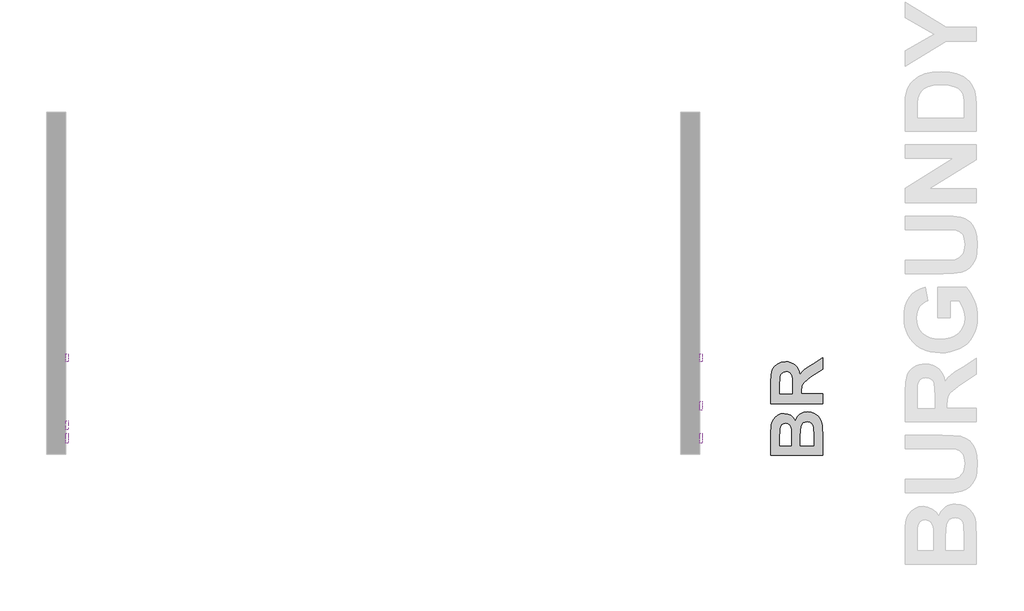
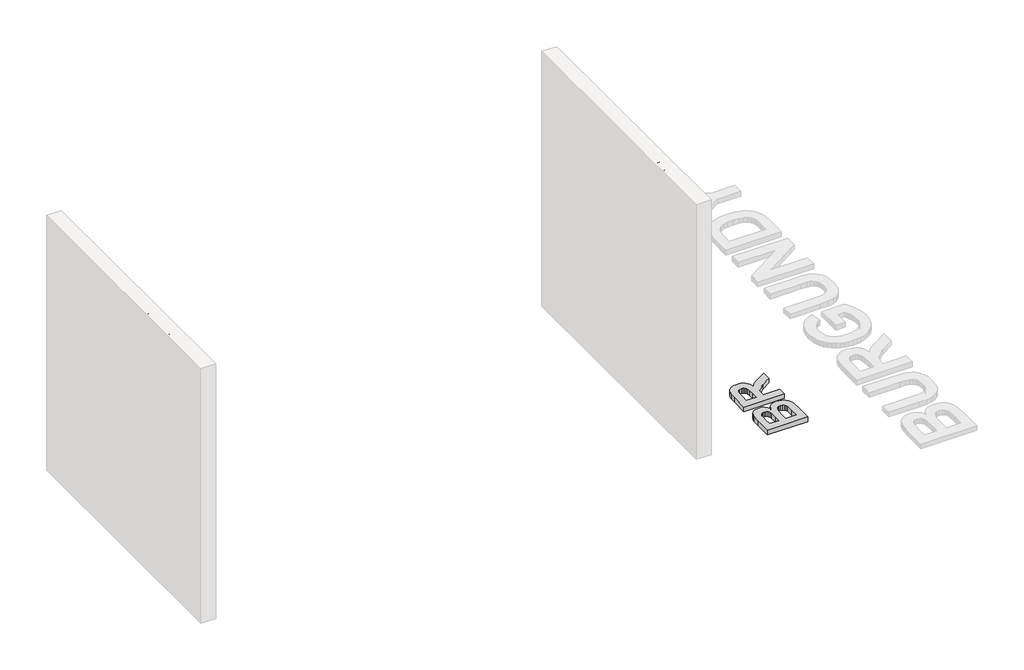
# One storey, part 6 of 10: 7 proxies.
"""IFC4 building model written with IfcOpenShell, lengths in millimetres."""

from ifc_helpers import new_model, si_unit, frame, origin, origin_with_axes, place, context, project, spatial, polyline, outline, extrude, element, save

model = new_model("IFC4")

# Units and contexts
model_context = context("Model", 3, world=origin())
ifc_project = project(units=[si_unit("LENGTHUNIT", "METRE", prefix="MILLI")], contexts=[model_context])

# Site, building, storey
site = spatial("IfcSite", under=ifc_project)
building = spatial("IfcBuilding", under=site)
storey = spatial("IfcBuildingStorey", under=building, Name="PORTOBELLO - SHOWROOM", Elevation=0.0)

# Proxies
placement = place(None, origin())
element("IfcBuildingElementProxy", 1, Name="10mm Arial", ObjectType="10mm Arial", at=placement, inside=storey, context=model_context, shape_type="SweptSolid", body=[
    extrude(outline(polyline([(3765.0222015, 2518.4745677), (3765.0222015, 2618.9308778), (3803.3555054, 2618.9308778), (3822.1297499, 2615.9755591), (3833.2152607, 2606.8888738), (3837.2251744, 2594.0375295), (3833.8529228, 2582.3020938), (3823.6625915, 2573.4116123), (3836.0356893, 2564.0428841), (3840.3644341, 2548.4201621), (3837.4091154, 2534.9188928), (3830.0882637, 2525.30491), (3819.1621685, 2520.203613), (3803.0611998, 2518.4745677), (3765.0222015, 2518.4745677)]), holes=[polyline([(3777.5792403, 2578.1205018), (3800.5105513, 2578.1205018), (3813.9014559, 2579.1996223), (3821.9580716, 2583.8471982), (3824.6681357, 2592.0264412), (3822.1420126, 2600.217947), (3814.9070001, 2605.0617266), (3798.7692432, 2606.373839), (3777.5792403, 2606.373839), (3777.5792403, 2578.1205018)]), polyline([(3777.5792403, 2531.0316064), (3803.3309799, 2531.0316064), (3812.6506572, 2531.5221158), (3820.5355946, 2534.2567053), (3825.7595189, 2539.8362488), (3827.8073954, 2548.2975347), (3825.4038997, 2558.0586703), (3817.6170641, 2563.8834686), (3802.1047066, 2565.563463), (3777.5792403, 2565.563463), (3777.5792403, 2531.0316064)])]), frame((-12116.0080774, 0.0, 0.0), z_axis=(1.0, 0.0, 0.0), x_axis=(0.0, 1.0, 0.0)), (0.0, 0.0, 1.0), 20.0),
    extrude(outline(polyline([(3903.149628, 2518.4745677), (3903.149628, 2531.1542338), (3893.314916, 2520.4672618), (3880.4880971, 2516.9049378), (3868.679085, 2519.4065354), (3860.5366302, 2525.6850548), (3856.7964966, 2534.9311556), (3856.0607326, 2546.6052776), (3856.0607326, 2592.2471704), (3868.6177714, 2592.2471704), (3868.6177714, 2552.515915), (3869.3780608, 2539.7136215), (3874.3444678, 2532.1965661), (3883.7009332, 2529.4619766), (3894.18557, 2532.2578797), (3901.1140143, 2539.873037), (3903.149628, 2553.8648156), (3903.149628, 2592.2471704), (3915.7066667, 2592.2471704), (3915.7066667, 2518.4745677), (3903.149628, 2518.4745677)])), frame((-12116.0080774, 0.0, 0.0), z_axis=(1.0, 0.0, 0.0), x_axis=(0.0, 1.0, 0.0)), (0.0, 0.0, 1.0), 20.0),
    extrude(outline(polyline([(3932.972595, 2518.4745677), (3932.972595, 2592.2471704), (3943.960004, 2592.2471704), (3943.960004, 2581.3333379), (3951.7591023, 2591.3887791), (3959.6072515, 2593.8168003), (3972.2133412, 2589.9417766), (3968.0194865, 2578.6845875), (3959.1903186, 2581.2597615), (3952.0901961, 2578.7826894), (3947.5652475, 2571.9155588), (3945.5296338, 2557.24933), (3945.5296338, 2518.4745677), (3932.972595, 2518.4745677)])), frame((-12116.0080774, 0.0, 0.0), z_axis=(1.0, 0.0, 0.0), x_axis=(0.0, 1.0, 0.0)), (0.0, 0.0, 1.0), 20.0),
    extrude(outline(polyline([(3976.9222307, 2512.1960483), (3989.4792695, 2510.6264184), (3993.5504969, 2504.0045425), (4005.7396537, 2501.2086394), (4018.5909981, 2504.3724245), (4024.7223646, 2513.2506433), (4025.580756, 2527.8923467), (4016.7393253, 2520.8290124), (4005.9603829, 2518.4745677), (3993.0140023, 2521.2152885), (3983.3601657, 2529.4374511), (3977.3544921, 2541.4917178), (3975.3526009, 2555.728751), (3978.9455817, 2575.1897086), (3989.3443794, 2588.9607579), (4005.3472462, 2593.8168003), (4016.549253, 2591.069948), (4025.580756, 2582.8293914), (4025.580756, 2592.2471704), (4038.1377947, 2592.2471704), (4038.1377947, 2528.5545343), (4034.7042294, 2504.1639581), (4023.8271851, 2492.8209299), (4005.494399, 2488.6516006), (3993.81108, 2490.1200629), (3984.6109644, 2494.5254498), (3978.7095241, 2501.880024), (3976.9222307, 2512.1960483)]), holes=[polyline([(3987.9096397, 2556.5871424), (3989.2493433, 2545.0693702), (3993.2684541, 2537.1507103), (3999.3109158, 2532.5613824), (4006.7206723, 2531.0316064), (4014.0752466, 2532.5521853), (4020.1483652, 2537.1139221), (4024.2226583, 2544.9314145), (4025.580756, 2556.2192604), (4024.1828044, 2567.1055017), (4019.9889496, 2574.9444539), (4013.8269262, 2579.6809346), (4006.5244686, 2581.2597615), (3999.3538354, 2579.7054601), (3993.3420305, 2575.0425558), (3989.2677374, 2567.3200996), (3987.9096397, 2556.5871424)])]), frame((-12116.0080774, 0.0, 0.0), z_axis=(1.0, 0.0, 0.0), x_axis=(0.0, 1.0, 0.0)), (0.0, 0.0, 1.0), 20.0),
    extrude(outline(polyline([(4104.0622483, 2518.4745677), (4104.0622483, 2531.1542338), (4094.2275363, 2520.4672618), (4081.4007174, 2516.9049378), (4069.5917053, 2519.4065354), (4061.4492505, 2525.6850548), (4057.7091169, 2534.9311556), (4056.9733529, 2546.6052776), (4056.9733529, 2592.2471704), (4069.5303917, 2592.2471704), (4069.5303917, 2552.515915), (4070.2906811, 2539.7136215), (4075.257088, 2532.1965661), (4084.6135535, 2529.4619766), (4095.0981903, 2532.2578797), (4102.0266346, 2539.873037), (4104.0622483, 2553.8648156), (4104.0622483, 2592.2471704), (4116.619287, 2592.2471704), (4116.619287, 2518.4745677), (4104.0622483, 2518.4745677)])), frame((-12116.0080774, 0.0, 0.0), z_axis=(1.0, 0.0, 0.0), x_axis=(0.0, 1.0, 0.0)), (0.0, 0.0, 1.0), 20.0),
    extrude(outline(polyline([(4133.8852153, 2518.4745677), (4133.8852153, 2592.2471704), (4146.4422541, 2592.2471704), (4146.4422541, 2581.9464746), (4156.0439742, 2590.8492188), (4169.152836, 2593.8168003), (4181.0108989, 2591.4255673), (4189.1043028, 2585.1470479), (4192.8689619, 2575.9132098), (4193.5311495, 2563.773104), (4193.5311495, 2518.4745677), (4180.9741107, 2518.4745677), (4180.9741107, 2562.0808468), (4179.5271082, 2573.1908831), (4174.4135485, 2579.0647323), (4165.7928471, 2581.2597615), (4152.1689505, 2576.3301428), (4147.8739282, 2569.1871007), (4146.4422541, 2557.6172119), (4146.4422541, 2518.4745677), (4133.8852153, 2518.4745677)])), frame((-12116.0080774, 0.0, 0.0), z_axis=(1.0, 0.0, 0.0), x_axis=(0.0, 1.0, 0.0)), (0.0, 0.0, 1.0), 20.0),
    extrude(outline(polyline([(4256.3163433, 2518.4745677), (4256.3163433, 2530.3203679), (4248.0083416, 2520.2587953), (4236.524292, 2516.9049378), (4220.9751463, 2521.7609802), (4209.9877374, 2535.3113003), (4206.0881883, 2555.2872926), (4209.6811691, 2575.2755477), (4220.4478488, 2589.0343343), (4236.4752411, 2593.8168003), (4248.0512612, 2590.3954977), (4256.3163433, 2581.5050162), (4256.3163433, 2618.9308778), (4268.8733821, 2618.9308778), (4268.8733821, 2518.4745677), (4256.3163433, 2518.4745677)]), holes=[polyline([(4218.645227, 2555.3363436), (4220.0615727, 2543.977987), (4224.3106098, 2535.8999115), (4230.4848959, 2531.0714603), (4237.6769889, 2529.4619766), (4244.8660162, 2530.9978839), (4250.8839525, 2535.6056059), (4254.9582456, 2543.3709817), (4256.3163433, 2554.3798504), (4254.9337202, 2566.415723), (4250.7858507, 2574.7605129), (4244.6146302, 2579.6349494), (4237.1619541, 2581.2597615), (4229.8962847, 2579.6993287), (4223.9427278, 2575.0180303), (4219.9696022, 2566.976743), (4218.645227, 2555.3363436)])]), frame((-12116.0080774, 0.0, 0.0), z_axis=(1.0, 0.0, 0.0), x_axis=(0.0, 1.0, 0.0)), (0.0, 0.0, 1.0), 20.0),
    extrude(outline(polyline([(4287.7089403, 2490.2212304), (4286.1393104, 2502.3122853), (4292.5159317, 2501.2086394), (4298.47562, 2502.5943282), (4302.1299145, 2506.4570892), (4305.5634798, 2515.70319), (4306.5444984, 2518.7443478), (4279.860791, 2592.2471704), (4293.0800174, 2592.2471704), (4307.2557369, 2551.2651162), (4312.1853557, 2534.8821046), (4317.1149744, 2549.3766553), (4331.658576, 2592.2471704), (4344.7797004, 2592.2471704), (4319.1015372, 2516.7087341), (4312.4306103, 2500.3257226), (4305.1465468, 2491.4720292), (4295.3854112, 2488.6516006), (4287.7089403, 2490.2212304)])), frame((-12116.0080774, 0.0, 0.0), z_axis=(1.0, 0.0, 0.0), x_axis=(0.0, 1.0, 0.0)), (0.0, 0.0, 1.0), 20.0),
])
element("IfcBuildingElementProxy", 2, Name="10mm Arial", ObjectType="10mm Arial", at=placement, inside=storey, context=model_context, shape_type="SweptSolid", body=[
    extrude(outline(polyline([(3760.313312, 2410.158275), (3772.8703507, 2411.7279049), (3779.1979211, 2398.7907214), (3792.3190456, 2394.4619766), (3801.3198917, 2395.9672271), (3808.064395, 2400.4829786), (3812.2766438, 2407.4880649), (3813.6807267, 2416.4613199), (3808.4200142, 2431.3728034), (3801.8134667, 2435.4746877), (3792.5152493, 2436.8419824), (3781.4910522, 2434.6592159), (3774.4399806, 2428.9938332), (3761.8829418, 2430.563463), (3772.8703507, 2482.361248), (3821.528876, 2482.361248), (3821.528876, 2469.8042092), (3783.0238938, 2469.8042092), (3777.6282912, 2442.1394832), (3786.5984805, 2447.5841367), (3795.9978655, 2449.3990212), (3807.7333012, 2447.1488097), (3817.482174, 2440.3981751), (3824.0488676, 2430.1097419), (3826.2377655, 2417.2461348), (3824.2695968, 2404.6890961), (3818.3650908, 2393.9469418), (3807.0588508, 2384.9154388), (3792.2699946, 2381.9049378), (3779.9367507, 2383.839384), (3770.1112358, 2389.6427224), (3763.3759296, 2398.6405029), (3760.313312, 2410.158275)])), frame((-12116.0080774, 0.0, 0.0), z_axis=(1.0, 0.0, 0.0), x_axis=(0.0, 1.0, 0.0)), (0.0, 0.0, 1.0), 20.0),
    extrude(outline(polyline([(3843.5036938, 2383.4745677), (3843.5036938, 2396.0316064), (3856.0607326, 2396.0316064), (3856.0607326, 2383.4745677), (3853.8043897, 2370.635486), (3846.6429535, 2363.0693797), (3843.5036938, 2367.7782692), (3848.1144815, 2373.1983973), (3849.7576877, 2383.4745677), (3843.5036938, 2383.4745677)])), frame((-12116.0080774, 0.0, 0.0), z_axis=(1.0, 0.0, 0.0), x_axis=(0.0, 1.0, 0.0)), (0.0, 0.0, 1.0), 20.0),
    extrude(outline(polyline([(3917.2762966, 2383.4745677), (3917.2762966, 2407.0190154), (3871.7570311, 2407.0190154), (3871.7570311, 2419.5760541), (3920.4155563, 2482.361248), (3929.8333354, 2482.361248), (3929.8333354, 2419.5760541), (3942.3903741, 2419.5760541), (3942.3903741, 2407.0190154), (3929.8333354, 2407.0190154), (3929.8333354, 2383.4745677), (3917.2762966, 2383.4745677)]), holes=[polyline([(3917.2762966, 2419.5760541), (3917.2762966, 2458.3753419), (3887.2080748, 2419.5760541), (3917.2762966, 2419.5760541)])]), frame((-12116.0080774, 0.0, 0.0), z_axis=(1.0, 0.0, 0.0), x_axis=(0.0, 1.0, 0.0)), (0.0, 0.0, 1.0), 20.0),
    extrude(outline(polyline([(3948.6688935, 2383.4745677), (3975.4997537, 2420.5815982), (3950.2385234, 2457.2471704), (3965.2971597, 2457.2471704), (3977.4863165, 2439.5643092), (3983.2007501, 2431.2501761), (3988.1548943, 2438.0682557), (4002.0363083, 2457.2471704), (4017.1439955, 2457.2471704), (3990.607441, 2420.5570728), (4016.1629769, 2383.4745677), (4001.0798151, 2383.4745677), (3985.6778222, 2405.792742), (3982.8819191, 2409.8884949), (3963.7765808, 2383.4745677), (3948.6688935, 2383.4745677)])), frame((-12116.0080774, 0.0, 0.0), z_axis=(1.0, 0.0, 0.0), x_axis=(0.0, 1.0, 0.0)), (0.0, 0.0, 1.0), 20.0),
    extrude(outline(polyline([(4071.1000215, 2383.4745677), (4058.5429827, 2383.4745677), (4058.5429827, 2461.7598562), (4046.6481316, 2453.2863076), (4033.4289052, 2446.9464746), (4033.4289052, 2458.8168003), (4051.8352677, 2470.5644987), (4063.0066176, 2483.9308778), (4071.1000215, 2483.9308778), (4071.1000215, 2383.4745677)])), frame((-12116.0080774, 0.0, 0.0), z_axis=(1.0, 0.0, 0.0), x_axis=(0.0, 1.0, 0.0)), (0.0, 0.0, 1.0), 20.0),
    extrude(outline(polyline([(4148.011884, 2383.4745677), (4135.4548452, 2383.4745677), (4135.4548452, 2461.7598562), (4123.559994, 2453.2863076), (4110.3407677, 2446.9464746), (4110.3407677, 2458.8168003), (4128.7471301, 2470.5644987), (4139.9184801, 2483.9308778), (4148.011884, 2483.9308778), (4148.011884, 2383.4745677)])), frame((-12116.0080774, 0.0, 0.0), z_axis=(1.0, 0.0, 0.0), x_axis=(0.0, 1.0, 0.0)), (0.0, 0.0, 1.0), 20.0),
    extrude(outline(polyline([(4184.1133704, 2383.4745677), (4184.1133704, 2396.0316064), (4196.6704092, 2396.0316064), (4196.6704092, 2383.4745677), (4194.4140663, 2370.635486), (4187.2526301, 2363.0693797), (4184.1133704, 2367.7782692), (4188.7241581, 2373.1983973), (4190.3673643, 2383.4745677), (4184.1133704, 2383.4745677)])), frame((-12116.0080774, 0.0, 0.0), z_axis=(1.0, 0.0, 0.0), x_axis=(0.0, 1.0, 0.0)), (0.0, 0.0, 1.0), 20.0),
    extrude(outline(polyline([(4217.0755972, 2410.158275), (4229.632636, 2411.7279049), (4235.9602063, 2398.7907214), (4249.0813308, 2394.4619766), (4258.0821769, 2395.9672271), (4264.8266802, 2400.4829786), (4269.038929, 2407.4880649), (4270.443012, 2416.4613199), (4265.1822994, 2431.3728034), (4258.5757519, 2435.4746877), (4249.2775345, 2436.8419824), (4238.2533374, 2434.6592159), (4231.2022658, 2428.9938332), (4218.645227, 2430.563463), (4229.632636, 2482.361248), (4278.2911612, 2482.361248), (4278.2911612, 2469.8042092), (4239.786179, 2469.8042092), (4234.3905764, 2442.1394832), (4243.3607657, 2447.5841367), (4252.7601507, 2449.3990212), (4264.4955864, 2447.1488097), (4274.2444592, 2440.3981751), (4280.8111529, 2430.1097419), (4283.0000507, 2417.2461348), (4281.0318821, 2404.6890961), (4275.127376, 2393.9469418), (4263.821136, 2384.9154388), (4249.0322798, 2381.9049378), (4236.6990359, 2383.839384), (4226.873521, 2389.6427224), (4220.1382148, 2398.6405029), (4217.0755972, 2410.158275)])), frame((-12116.0080774, 0.0, 0.0), z_axis=(1.0, 0.0, 0.0), x_axis=(0.0, 1.0, 0.0)), (0.0, 0.0, 1.0), 20.0),
])
element("IfcBuildingElementProxy", 3, Name="10mm Arial", ObjectType="10mm Arial", at=placement, inside=storey, context=model_context, shape_type="SweptSolid", body=[
    extrude(outline(polyline([(3765.0222015, 2518.4745677), (3765.0222015, 2618.9308778), (3803.3555054, 2618.9308778), (3822.1297499, 2615.9755591), (3833.2152607, 2606.8888738), (3837.2251744, 2594.0375295), (3833.8529228, 2582.3020938), (3823.6625915, 2573.4116123), (3836.0356893, 2564.0428841), (3840.3644341, 2548.4201621), (3837.4091154, 2534.9188928), (3830.0882637, 2525.30491), (3819.1621685, 2520.203613), (3803.0611998, 2518.4745677), (3765.0222015, 2518.4745677)]), holes=[polyline([(3777.5792403, 2578.1205018), (3800.5105513, 2578.1205018), (3813.9014559, 2579.1996223), (3821.9580716, 2583.8471982), (3824.6681357, 2592.0264412), (3822.1420126, 2600.217947), (3814.9070001, 2605.0617266), (3798.7692432, 2606.373839), (3777.5792403, 2606.373839), (3777.5792403, 2578.1205018)]), polyline([(3777.5792403, 2531.0316064), (3803.3309799, 2531.0316064), (3812.6506572, 2531.5221158), (3820.5355946, 2534.2567053), (3825.7595189, 2539.8362488), (3827.8073954, 2548.2975347), (3825.4038997, 2558.0586703), (3817.6170641, 2563.8834686), (3802.1047066, 2565.563463), (3777.5792403, 2565.563463), (3777.5792403, 2531.0316064)])]), frame((-7116.0080774, 0.0, 0.0), z_axis=(1.0, 0.0, 0.0), x_axis=(0.0, 1.0, 0.0)), (0.0, 0.0, 1.0), 20.0),
    extrude(outline(polyline([(3903.149628, 2518.4745677), (3903.149628, 2531.1542338), (3893.314916, 2520.4672618), (3880.4880971, 2516.9049378), (3868.679085, 2519.4065354), (3860.5366302, 2525.6850548), (3856.7964966, 2534.9311556), (3856.0607326, 2546.6052776), (3856.0607326, 2592.2471704), (3868.6177714, 2592.2471704), (3868.6177714, 2552.515915), (3869.3780608, 2539.7136215), (3874.3444678, 2532.1965661), (3883.7009332, 2529.4619766), (3894.18557, 2532.2578797), (3901.1140143, 2539.873037), (3903.149628, 2553.8648156), (3903.149628, 2592.2471704), (3915.7066667, 2592.2471704), (3915.7066667, 2518.4745677), (3903.149628, 2518.4745677)])), frame((-7116.0080774, 0.0, 0.0), z_axis=(1.0, 0.0, 0.0), x_axis=(0.0, 1.0, 0.0)), (0.0, 0.0, 1.0), 20.0),
    extrude(outline(polyline([(3932.972595, 2518.4745677), (3932.972595, 2592.2471704), (3943.960004, 2592.2471704), (3943.960004, 2581.3333379), (3951.7591023, 2591.3887791), (3959.6072515, 2593.8168003), (3972.2133412, 2589.9417766), (3968.0194865, 2578.6845875), (3959.1903186, 2581.2597615), (3952.0901961, 2578.7826894), (3947.5652475, 2571.9155588), (3945.5296338, 2557.24933), (3945.5296338, 2518.4745677), (3932.972595, 2518.4745677)])), frame((-7116.0080774, 0.0, 0.0), z_axis=(1.0, 0.0, 0.0), x_axis=(0.0, 1.0, 0.0)), (0.0, 0.0, 1.0), 20.0),
    extrude(outline(polyline([(3976.9222307, 2512.1960483), (3989.4792695, 2510.6264184), (3993.5504969, 2504.0045425), (4005.7396537, 2501.2086394), (4018.5909981, 2504.3724245), (4024.7223646, 2513.2506433), (4025.580756, 2527.8923467), (4016.7393253, 2520.8290124), (4005.9603829, 2518.4745677), (3993.0140023, 2521.2152885), (3983.3601657, 2529.4374511), (3977.3544921, 2541.4917178), (3975.3526009, 2555.728751), (3978.9455817, 2575.1897086), (3989.3443794, 2588.9607579), (4005.3472462, 2593.8168003), (4016.549253, 2591.069948), (4025.580756, 2582.8293914), (4025.580756, 2592.2471704), (4038.1377947, 2592.2471704), (4038.1377947, 2528.5545343), (4034.7042294, 2504.1639581), (4023.8271851, 2492.8209299), (4005.494399, 2488.6516006), (3993.81108, 2490.1200629), (3984.6109644, 2494.5254498), (3978.7095241, 2501.880024), (3976.9222307, 2512.1960483)]), holes=[polyline([(3987.9096397, 2556.5871424), (3989.2493433, 2545.0693702), (3993.2684541, 2537.1507103), (3999.3109158, 2532.5613824), (4006.7206723, 2531.0316064), (4014.0752466, 2532.5521853), (4020.1483652, 2537.1139221), (4024.2226583, 2544.9314145), (4025.580756, 2556.2192604), (4024.1828044, 2567.1055017), (4019.9889496, 2574.9444539), (4013.8269262, 2579.6809346), (4006.5244686, 2581.2597615), (3999.3538354, 2579.7054601), (3993.3420305, 2575.0425558), (3989.2677374, 2567.3200996), (3987.9096397, 2556.5871424)])]), frame((-7116.0080774, 0.0, 0.0), z_axis=(1.0, 0.0, 0.0), x_axis=(0.0, 1.0, 0.0)), (0.0, 0.0, 1.0), 20.0),
    extrude(outline(polyline([(4104.0622483, 2518.4745677), (4104.0622483, 2531.1542338), (4094.2275363, 2520.4672618), (4081.4007174, 2516.9049378), (4069.5917053, 2519.4065354), (4061.4492505, 2525.6850548), (4057.7091169, 2534.9311556), (4056.9733529, 2546.6052776), (4056.9733529, 2592.2471704), (4069.5303917, 2592.2471704), (4069.5303917, 2552.515915), (4070.2906811, 2539.7136215), (4075.257088, 2532.1965661), (4084.6135535, 2529.4619766), (4095.0981903, 2532.2578797), (4102.0266346, 2539.873037), (4104.0622483, 2553.8648156), (4104.0622483, 2592.2471704), (4116.619287, 2592.2471704), (4116.619287, 2518.4745677), (4104.0622483, 2518.4745677)])), frame((-7116.0080774, 0.0, 0.0), z_axis=(1.0, 0.0, 0.0), x_axis=(0.0, 1.0, 0.0)), (0.0, 0.0, 1.0), 20.0),
    extrude(outline(polyline([(4133.8852153, 2518.4745677), (4133.8852153, 2592.2471704), (4146.4422541, 2592.2471704), (4146.4422541, 2581.9464746), (4156.0439742, 2590.8492188), (4169.152836, 2593.8168003), (4181.0108989, 2591.4255673), (4189.1043028, 2585.1470479), (4192.8689619, 2575.9132098), (4193.5311495, 2563.773104), (4193.5311495, 2518.4745677), (4180.9741107, 2518.4745677), (4180.9741107, 2562.0808468), (4179.5271082, 2573.1908831), (4174.4135485, 2579.0647323), (4165.7928471, 2581.2597615), (4152.1689505, 2576.3301428), (4147.8739282, 2569.1871007), (4146.4422541, 2557.6172119), (4146.4422541, 2518.4745677), (4133.8852153, 2518.4745677)])), frame((-7116.0080774, 0.0, 0.0), z_axis=(1.0, 0.0, 0.0), x_axis=(0.0, 1.0, 0.0)), (0.0, 0.0, 1.0), 20.0),
    extrude(outline(polyline([(4256.3163433, 2518.4745677), (4256.3163433, 2530.3203679), (4248.0083416, 2520.2587953), (4236.524292, 2516.9049378), (4220.9751463, 2521.7609802), (4209.9877374, 2535.3113003), (4206.0881883, 2555.2872926), (4209.6811691, 2575.2755477), (4220.4478488, 2589.0343343), (4236.4752411, 2593.8168003), (4248.0512612, 2590.3954977), (4256.3163433, 2581.5050162), (4256.3163433, 2618.9308778), (4268.8733821, 2618.9308778), (4268.8733821, 2518.4745677), (4256.3163433, 2518.4745677)]), holes=[polyline([(4218.645227, 2555.3363436), (4220.0615727, 2543.977987), (4224.3106098, 2535.8999115), (4230.4848959, 2531.0714603), (4237.6769889, 2529.4619766), (4244.8660162, 2530.9978839), (4250.8839525, 2535.6056059), (4254.9582456, 2543.3709817), (4256.3163433, 2554.3798504), (4254.9337202, 2566.415723), (4250.7858507, 2574.7605129), (4244.6146302, 2579.6349494), (4237.1619541, 2581.2597615), (4229.8962847, 2579.6993287), (4223.9427278, 2575.0180303), (4219.9696022, 2566.976743), (4218.645227, 2555.3363436)])]), frame((-7116.0080774, 0.0, 0.0), z_axis=(1.0, 0.0, 0.0), x_axis=(0.0, 1.0, 0.0)), (0.0, 0.0, 1.0), 20.0),
    extrude(outline(polyline([(4287.7089403, 2490.2212304), (4286.1393104, 2502.3122853), (4292.5159317, 2501.2086394), (4298.47562, 2502.5943282), (4302.1299145, 2506.4570892), (4305.5634798, 2515.70319), (4306.5444984, 2518.7443478), (4279.860791, 2592.2471704), (4293.0800174, 2592.2471704), (4307.2557369, 2551.2651162), (4312.1853557, 2534.8821046), (4317.1149744, 2549.3766553), (4331.658576, 2592.2471704), (4344.7797004, 2592.2471704), (4319.1015372, 2516.7087341), (4312.4306103, 2500.3257226), (4305.1465468, 2491.4720292), (4295.3854112, 2488.6516006), (4287.7089403, 2490.2212304)])), frame((-7116.0080774, 0.0, 0.0), z_axis=(1.0, 0.0, 0.0), x_axis=(0.0, 1.0, 0.0)), (0.0, 0.0, 1.0), 20.0),
])
element("IfcBuildingElementProxy", 4, Name="10mm Arial", ObjectType="10mm Arial", at=placement, inside=storey, context=model_context, shape_type="SweptSolid", body=[
    extrude(outline(polyline([(3807.4022074, 2383.4745677), (3794.8451686, 2383.4745677), (3794.8451686, 2461.7598562), (3782.9503174, 2453.2863076), (3769.7310911, 2446.9464746), (3769.7310911, 2458.8168003), (3788.1374535, 2470.5644987), (3799.3088035, 2483.9308778), (3807.4022074, 2483.9308778), (3807.4022074, 2383.4745677)])), frame((-7116.0080774, 0.0, 0.0), z_axis=(1.0, 0.0, 0.0), x_axis=(0.0, 1.0, 0.0)), (0.0, 0.0, 1.0), 20.0),
    extrude(outline(polyline([(3884.3140698, 2383.4745677), (3871.7570311, 2383.4745677), (3871.7570311, 2461.7598562), (3859.8621799, 2453.2863076), (3846.6429535, 2446.9464746), (3846.6429535, 2458.8168003), (3865.049316, 2470.5644987), (3876.2206659, 2483.9308778), (3884.3140698, 2483.9308778), (3884.3140698, 2383.4745677)])), frame((-7116.0080774, 0.0, 0.0), z_axis=(1.0, 0.0, 0.0), x_axis=(0.0, 1.0, 0.0)), (0.0, 0.0, 1.0), 20.0),
    extrude(outline(polyline([(3920.4155563, 2383.4745677), (3920.4155563, 2396.0316064), (3932.972595, 2396.0316064), (3932.972595, 2383.4745677), (3930.7162521, 2370.635486), (3923.554816, 2363.0693797), (3920.4155563, 2367.7782692), (3925.026344, 2373.1983973), (3926.6695502, 2383.4745677), (3920.4155563, 2383.4745677)])), frame((-7116.0080774, 0.0, 0.0), z_axis=(1.0, 0.0, 0.0), x_axis=(0.0, 1.0, 0.0)), (0.0, 0.0, 1.0), 20.0),
    extrude(outline(polyline([(3953.377783, 2410.158275), (3965.9348218, 2411.7279049), (3972.2623921, 2398.7907214), (3985.3835166, 2394.4619766), (3994.3843628, 2395.9672271), (4001.128866, 2400.4829786), (4005.3411149, 2407.4880649), (4006.7451978, 2416.4613199), (4001.4844853, 2431.3728034), (3994.8779378, 2435.4746877), (3985.5797204, 2436.8419824), (3974.5555232, 2434.6592159), (3967.5044517, 2428.9938332), (3954.9474129, 2430.563463), (3965.9348218, 2482.361248), (4014.593347, 2482.361248), (4014.593347, 2469.8042092), (3976.0883649, 2469.8042092), (3970.6927623, 2442.1394832), (3979.6629516, 2447.5841367), (3989.0623366, 2449.3990212), (4000.7977722, 2447.1488097), (4010.5466451, 2440.3981751), (4017.1133387, 2430.1097419), (4019.3022366, 2417.2461348), (4017.3340679, 2404.6890961), (4011.4295619, 2393.9469418), (4000.1233219, 2384.9154388), (3985.3344657, 2381.9049378), (3973.0012218, 2383.839384), (3963.1757069, 2389.6427224), (3956.4404007, 2398.6405029), (3953.377783, 2410.158275)])), frame((-7116.0080774, 0.0, 0.0), z_axis=(1.0, 0.0, 0.0), x_axis=(0.0, 1.0, 0.0)), (0.0, 0.0, 1.0), 20.0),
    extrude(outline(polyline([(4025.580756, 2383.4745677), (4052.4116161, 2420.5815982), (4027.1503858, 2457.2471704), (4042.2090221, 2457.2471704), (4054.3981789, 2439.5643092), (4060.1126126, 2431.2501761), (4065.0667568, 2438.0682557), (4078.9481707, 2457.2471704), (4094.055858, 2457.2471704), (4067.5193034, 2420.5570728), (4093.0748393, 2383.4745677), (4077.9916775, 2383.4745677), (4062.5896847, 2405.792742), (4059.7937815, 2409.8884949), (4040.6884432, 2383.4745677), (4025.580756, 2383.4745677)])), frame((-7116.0080774, 0.0, 0.0), z_axis=(1.0, 0.0, 0.0), x_axis=(0.0, 1.0, 0.0)), (0.0, 0.0, 1.0), 20.0),
    extrude(outline(polyline([(4148.011884, 2383.4745677), (4135.4548452, 2383.4745677), (4135.4548452, 2461.7598562), (4123.559994, 2453.2863076), (4110.3407677, 2446.9464746), (4110.3407677, 2458.8168003), (4128.7471301, 2470.5644987), (4139.9184801, 2483.9308778), (4148.011884, 2483.9308778), (4148.011884, 2383.4745677)])), frame((-7116.0080774, 0.0, 0.0), z_axis=(1.0, 0.0, 0.0), x_axis=(0.0, 1.0, 0.0)), (0.0, 0.0, 1.0), 20.0),
    extrude(outline(polyline([(4224.9237464, 2383.4745677), (4212.3667077, 2383.4745677), (4212.3667077, 2461.7598562), (4200.4718565, 2453.2863076), (4187.2526301, 2446.9464746), (4187.2526301, 2458.8168003), (4205.6589926, 2470.5644987), (4216.8303425, 2483.9308778), (4224.9237464, 2483.9308778), (4224.9237464, 2383.4745677)])), frame((-7116.0080774, 0.0, 0.0), z_axis=(1.0, 0.0, 0.0), x_axis=(0.0, 1.0, 0.0)), (0.0, 0.0, 1.0), 20.0),
    extrude(outline(polyline([(4261.0252329, 2383.4745677), (4261.0252329, 2396.0316064), (4273.5822716, 2396.0316064), (4273.5822716, 2383.4745677), (4271.3259287, 2370.635486), (4264.1644926, 2363.0693797), (4261.0252329, 2367.7782692), (4265.6360206, 2373.1983973), (4267.2792268, 2383.4745677), (4261.0252329, 2383.4745677)])), frame((-7116.0080774, 0.0, 0.0), z_axis=(1.0, 0.0, 0.0), x_axis=(0.0, 1.0, 0.0)), (0.0, 0.0, 1.0), 20.0),
    extrude(outline(polyline([(4293.9874596, 2410.158275), (4306.5444984, 2411.7279049), (4312.8720687, 2398.7907214), (4325.9931932, 2394.4619766), (4334.9940394, 2395.9672271), (4341.7385426, 2400.4829786), (4345.9507915, 2407.4880649), (4347.3548744, 2416.4613199), (4342.0941619, 2431.3728034), (4335.4876144, 2435.4746877), (4326.189397, 2436.8419824), (4315.1651998, 2434.6592159), (4308.1141283, 2428.9938332), (4295.5570895, 2430.563463), (4306.5444984, 2482.361248), (4355.2030236, 2482.361248), (4355.2030236, 2469.8042092), (4316.6980415, 2469.8042092), (4311.3024389, 2442.1394832), (4320.2726282, 2447.5841367), (4329.6720132, 2449.3990212), (4341.4074488, 2447.1488097), (4351.1563217, 2440.3981751), (4357.7230153, 2430.1097419), (4359.9119132, 2417.2461348), (4357.9437445, 2404.6890961), (4352.0392385, 2393.9469418), (4340.7329985, 2384.9154388), (4325.9441423, 2381.9049378), (4313.6108984, 2383.839384), (4303.7853835, 2389.6427224), (4297.0500773, 2398.6405029), (4293.9874596, 2410.158275)])), frame((-7116.0080774, 0.0, 0.0), z_axis=(1.0, 0.0, 0.0), x_axis=(0.0, 1.0, 0.0)), (0.0, 0.0, 1.0), 20.0),
])
element("IfcBuildingElementProxy", 5, Name="10mm Arial Narrow", ObjectType="10mm Arial Narrow", at=placement, inside=storey, context=model_context, shape_type="SweptSolid", body=[
    extrude(outline(polyline([(4406.9277964, 2518.4745677), (4406.9277964, 2615.7916181), (4437.1676964, 2615.7916181), (4452.9130458, 2613.9767336), (4463.9985566, 2604.8164719), (4468.1433604, 2588.3721467), (4466.4173807, 2576.7041561), (4461.2394416, 2567.402873), (4451.8247282, 2561.314426), (4437.3884256, 2559.2849437), (4416.3455754, 2559.2849437), (4416.3455754, 2518.4745677), (4406.9277964, 2518.4745677)]), holes=[polyline([(4416.3455754, 2570.2723526), (4438.5411225, 2570.2723526), (4453.869539, 2574.6501483), (4458.7255813, 2587.857112), (4456.3343483, 2597.6795612), (4450.558601, 2603.2836303), (4438.3203933, 2604.8042092), (4416.3455754, 2604.8042092), (4416.3455754, 2570.2723526)])]), frame((-12116.0080774, 0.0, 0.0), z_axis=(1.0, 0.0, 0.0), x_axis=(0.0, 1.0, 0.0)), (0.0, 0.0, 1.0), 20.0),
    extrude(outline(polyline([(4475.9915096, 2553.7912392), (4477.8799705, 2569.8216971), (4483.5453532, 2581.3701261), (4492.104741, 2588.350687), (4502.675217, 2590.6775406), (4513.1230656, 2588.350687), (4521.7069789, 2581.3701261), (4527.445938, 2570.0056381), (4529.3589244, 2554.5270032), (4527.4796605, 2537.9447223), (4521.8418689, 2526.2123523), (4513.2916782, 2519.2317914), (4502.675217, 2516.9049378), (4492.1813831, 2519.2379228), (4483.6066669, 2526.2368778), (4477.8952989, 2537.7914381), (4475.9915096, 2553.7912392)]), holes=[polyline([(4485.4092887, 2553.8157647), (4486.6692845, 2541.6879216), (4490.449272, 2533.1162711), (4496.093195, 2528.0211054), (4502.9449971, 2526.3227169), (4509.4381143, 2528.0364339), (4514.9379502, 2533.1775847), (4518.6903465, 2541.7645636), (4519.9411453, 2553.8157647), (4518.6811495, 2565.9068196), (4514.901162, 2574.4662073), (4509.257239, 2579.561373), (4502.4054369, 2581.2597615), (4495.8663344, 2579.5521759), (4490.3756956, 2574.4294191), (4486.6508904, 2565.8608343), (4485.4092887, 2553.8157647)])]), frame((-12116.0080774, 0.0, 0.0), z_axis=(1.0, 0.0, 0.0), x_axis=(0.0, 1.0, 0.0)), (0.0, 0.0, 1.0), 20.0),
    extrude(outline(polyline([(4598.4226376, 2526.3227169), (4599.9922674, 2516.9049378), (4592.8798822, 2516.9049378), (4584.8845802, 2518.9528143), (4580.7152509, 2524.5568833), (4579.5870794, 2538.7080774), (4579.5870794, 2579.6901317), (4571.7389302, 2579.6901317), (4571.7389302, 2582.8293914), (4570.1693004, 2578.1205018), (4562.8607114, 2579.6901317), (4556.9868622, 2577.4460515), (4553.2467286, 2571.1797948), (4551.3337422, 2556.2928368), (4551.3337422, 2518.4745677), (4541.9159631, 2518.4745677), (4541.9159631, 2589.1079107), (4551.3337422, 2589.1079107), (4551.3337422, 2579.7391826), (4557.3670069, 2588.5192995), (4563.5474244, 2590.6775406), (4571.7389302, 2589.1079107), (4579.5870794, 2589.1079107), (4579.5870794, 2604.8042092), (4589.0048585, 2612.6523584), (4589.0048585, 2589.1079107), (4598.4226376, 2589.1079107), (4598.4226376, 2579.6901317), (4589.0048585, 2579.6901317), (4589.0048585, 2536.5498364), (4589.8387244, 2528.8243145), (4594.3023592, 2526.3227169), (4598.4226376, 2526.3227169)])), frame((-12116.0080774, 0.0, 0.0), z_axis=(1.0, 0.0, 0.0), x_axis=(0.0, 1.0, 0.0)), (0.0, 0.0, 1.0), 20.0),
    extrude(outline(polyline([(4604.701157, 2553.7912392), (4606.5896179, 2569.8216971), (4612.2550006, 2581.3701261), (4620.8143884, 2588.350687), (4631.3848644, 2590.6775406), (4641.832713, 2588.350687), (4650.4166262, 2581.3701261), (4656.1555854, 2570.0056381), (4658.0685717, 2554.5270032), (4656.1893079, 2537.9447223), (4650.5515163, 2526.2123523), (4642.0013256, 2519.2317914), (4631.3848644, 2516.9049378), (4620.8910304, 2519.2379228), (4612.3163143, 2526.2368778), (4606.6049463, 2537.7914381), (4604.701157, 2553.7912392)]), holes=[polyline([(4614.1189361, 2553.8157647), (4615.3789319, 2541.6879216), (4619.1589194, 2533.1162711), (4624.8028423, 2528.0211054), (4631.6546445, 2526.3227169), (4638.1477617, 2528.0364339), (4643.6475975, 2533.1775847), (4647.3999939, 2541.7645636), (4648.6507927, 2553.8157647), (4647.3907968, 2565.9068196), (4643.6108093, 2574.4662073), (4637.9668864, 2579.561373), (4631.1150842, 2581.2597615), (4624.5759818, 2579.5521759), (4619.085343, 2574.4294191), (4615.3605378, 2565.8608343), (4614.1189361, 2553.8157647)])]), frame((-12116.0080774, 0.0, 0.0), z_axis=(1.0, 0.0, 0.0), x_axis=(0.0, 1.0, 0.0)), (0.0, 0.0, 1.0), 20.0),
    extrude(outline(polyline([(4680.0433896, 2518.4745677), (4670.6256105, 2518.4745677), (4670.6256105, 2615.7916181), (4680.0433896, 2615.7916181), (4680.0433896, 2581.5785926), (4687.192563, 2588.4211977), (4696.0830446, 2590.6775406), (4708.5297187, 2586.6185759), (4717.4937767, 2574.3190545), (4720.8537656, 2554.3307995), (4718.9867645, 2538.4321659), (4713.3857611, 2526.641548), (4705.2954229, 2519.3390904), (4695.9604172, 2516.9049378), (4686.9350456, 2519.4310609), (4680.0433896, 2526.9358536), (4680.0433896, 2518.4745677)]), holes=[polyline([(4680.0433896, 2554.3307995), (4682.0544778, 2537.6657451), (4687.744386, 2529.2289847), (4695.9113663, 2526.3227169), (4701.6533911, 2528.0517623), (4706.7148342, 2533.2388984), (4711.4359865, 2553.938392), (4706.8865125, 2574.6501483), (4701.818938, 2579.6073582), (4695.7151626, 2581.2597615), (4689.9394153, 2579.5307161), (4684.8258555, 2574.34358), (4680.0433896, 2554.3307995)])]), frame((-12116.0080774, 0.0, 0.0), z_axis=(1.0, 0.0, 0.0), x_axis=(0.0, 1.0, 0.0)), (0.0, 0.0, 1.0), 20.0),
    extrude(outline(polyline([(4771.0819207, 2540.4493855), (4780.4996997, 2538.8797557), (4771.3026499, 2522.4476932), (4754.8215365, 2516.9049378), (4743.6195297, 2519.2379228), (4734.7842305, 2526.2368778), (4729.0452713, 2537.6442853), (4727.132285, 2553.202628), (4729.0544684, 2569.3066623), (4734.8210187, 2581.0758205), (4743.5306249, 2588.2771106), (4754.2819762, 2590.6775406), (4764.6041319, 2588.359884), (4773.0562207, 2581.4069143), (4778.6940123, 2570.0638861), (4780.5732761, 2554.5760541), (4780.4996997, 2551.4367944), (4736.550064, 2551.4367944), (4742.3503368, 2532.6502872), (4748.0800989, 2527.9046095), (4754.9441638, 2526.3227169), (4764.7788758, 2529.854384), (4771.0819207, 2540.4493855)]), holes=[polyline([(4737.1877262, 2560.8545735), (4771.0819207, 2560.8545735), (4766.9616423, 2574.6378856), (4761.3330478, 2579.6042925), (4754.3555526, 2581.2597615), (4742.5588033, 2575.7415316), (4737.1877262, 2560.8545735)])]), frame((-12116.0080774, 0.0, 0.0), z_axis=(1.0, 0.0, 0.0), x_axis=(0.0, 1.0, 0.0)), (0.0, 0.0, 1.0), 20.0),
    extrude(outline(polyline([(-12096.0080774, 4802.4745176), (-12096.0080774, 4793.0567385), (-12116.0080774, 4793.0567385), (-12116.0080774, 4802.4745176), (-12096.0080774, 4802.4745176)])), frame((0.0, 0.0, 2518.4745677), z_axis=(0.0, 0.0, 1.0), x_axis=(1.0, 0.0, 0.0)), (0.0, 0.0, 1.0), 97.3170505),
    extrude(outline(polyline([(-12096.0080774, 4827.5885951), (-12096.0080774, 4818.170816), (-12116.0080774, 4818.170816), (-12116.0080774, 4827.5885951), (-12096.0080774, 4827.5885951)])), frame((0.0, 0.0, 2518.4745677), z_axis=(0.0, 0.0, 1.0), x_axis=(1.0, 0.0, 0.0)), (0.0, 0.0, 1.0), 97.3170505),
    extrude(outline(polyline([(4838.576004, 2553.7912392), (4840.464465, 2569.8216971), (4846.1298477, 2581.3701261), (4854.6892354, 2588.350687), (4865.2597114, 2590.6775406), (4875.7075601, 2588.350687), (4884.2914733, 2581.3701261), (4890.0304324, 2570.0056381), (4891.9434188, 2554.5270032), (4890.064155, 2537.9447223), (4884.4263634, 2526.2123523), (4875.8761727, 2519.2317914), (4865.2597114, 2516.9049378), (4854.7658775, 2519.2379228), (4846.1911613, 2526.2368778), (4840.4797934, 2537.7914381), (4838.576004, 2553.7912392)]), holes=[polyline([(4847.9937831, 2553.8157647), (4849.253779, 2541.6879216), (4853.0337665, 2533.1162711), (4858.6776894, 2528.0211054), (4865.5294916, 2526.3227169), (4872.0226088, 2528.0364339), (4877.5224446, 2533.1775847), (4881.274841, 2541.7645636), (4882.5256397, 2553.8157647), (4881.2656439, 2565.9068196), (4877.4856564, 2574.4662073), (4871.8417335, 2579.561373), (4864.9899313, 2581.2597615), (4858.4508288, 2579.5521759), (4852.9601901, 2574.4294191), (4849.2353849, 2565.8608343), (4847.9937831, 2553.8157647)])]), frame((-12116.0080774, 0.0, 0.0), z_axis=(1.0, 0.0, 0.0), x_axis=(0.0, 1.0, 0.0)), (0.0, 0.0, 1.0), 20.0),
])
element("IfcBuildingElementProxy", 6, Name="10mm Arial Narrow", ObjectType="10mm Arial Narrow", at=placement, inside=storey, context=model_context, shape_type="SweptSolid", body=[
    extrude(outline(polyline([(4406.9277964, 2518.4745677), (4406.9277964, 2615.7916181), (4437.1676964, 2615.7916181), (4452.9130458, 2613.9767336), (4463.9985566, 2604.8164719), (4468.1433604, 2588.3721467), (4466.4173807, 2576.7041561), (4461.2394416, 2567.402873), (4451.8247282, 2561.314426), (4437.3884256, 2559.2849437), (4416.3455754, 2559.2849437), (4416.3455754, 2518.4745677), (4406.9277964, 2518.4745677)]), holes=[polyline([(4416.3455754, 2570.2723526), (4438.5411225, 2570.2723526), (4453.869539, 2574.6501483), (4458.7255813, 2587.857112), (4456.3343483, 2597.6795612), (4450.558601, 2603.2836303), (4438.3203933, 2604.8042092), (4416.3455754, 2604.8042092), (4416.3455754, 2570.2723526)])]), frame((-7116.0080774, 0.0, 0.0), z_axis=(1.0, 0.0, 0.0), x_axis=(0.0, 1.0, 0.0)), (0.0, 0.0, 1.0), 20.0),
    extrude(outline(polyline([(4475.9915096, 2553.7912392), (4477.8799705, 2569.8216971), (4483.5453532, 2581.3701261), (4492.104741, 2588.350687), (4502.675217, 2590.6775406), (4513.1230656, 2588.350687), (4521.7069789, 2581.3701261), (4527.445938, 2570.0056381), (4529.3589244, 2554.5270032), (4527.4796605, 2537.9447223), (4521.8418689, 2526.2123523), (4513.2916782, 2519.2317914), (4502.675217, 2516.9049378), (4492.1813831, 2519.2379228), (4483.6066669, 2526.2368778), (4477.8952989, 2537.7914381), (4475.9915096, 2553.7912392)]), holes=[polyline([(4485.4092887, 2553.8157647), (4486.6692845, 2541.6879216), (4490.449272, 2533.1162711), (4496.093195, 2528.0211054), (4502.9449971, 2526.3227169), (4509.4381143, 2528.0364339), (4514.9379502, 2533.1775847), (4518.6903465, 2541.7645636), (4519.9411453, 2553.8157647), (4518.6811495, 2565.9068196), (4514.901162, 2574.4662073), (4509.257239, 2579.561373), (4502.4054369, 2581.2597615), (4495.8663344, 2579.5521759), (4490.3756956, 2574.4294191), (4486.6508904, 2565.8608343), (4485.4092887, 2553.8157647)])]), frame((-7116.0080774, 0.0, 0.0), z_axis=(1.0, 0.0, 0.0), x_axis=(0.0, 1.0, 0.0)), (0.0, 0.0, 1.0), 20.0),
    extrude(outline(polyline([(4598.4226376, 2526.3227169), (4599.9922674, 2516.9049378), (4592.8798822, 2516.9049378), (4584.8845802, 2518.9528143), (4580.7152509, 2524.5568833), (4579.5870794, 2538.7080774), (4579.5870794, 2579.6901317), (4571.7389302, 2579.6901317), (4571.7389302, 2582.8293914), (4570.1693004, 2578.1205018), (4562.8607114, 2579.6901317), (4556.9868622, 2577.4460515), (4553.2467286, 2571.1797948), (4551.3337422, 2556.2928368), (4551.3337422, 2518.4745677), (4541.9159631, 2518.4745677), (4541.9159631, 2589.1079107), (4551.3337422, 2589.1079107), (4551.3337422, 2579.7391826), (4557.3670069, 2588.5192995), (4563.5474244, 2590.6775406), (4571.7389302, 2589.1079107), (4579.5870794, 2589.1079107), (4579.5870794, 2604.8042092), (4589.0048585, 2612.6523584), (4589.0048585, 2589.1079107), (4598.4226376, 2589.1079107), (4598.4226376, 2579.6901317), (4589.0048585, 2579.6901317), (4589.0048585, 2536.5498364), (4589.8387244, 2528.8243145), (4594.3023592, 2526.3227169), (4598.4226376, 2526.3227169)])), frame((-7116.0080774, 0.0, 0.0), z_axis=(1.0, 0.0, 0.0), x_axis=(0.0, 1.0, 0.0)), (0.0, 0.0, 1.0), 20.0),
    extrude(outline(polyline([(4604.701157, 2553.7912392), (4606.5896179, 2569.8216971), (4612.2550006, 2581.3701261), (4620.8143884, 2588.350687), (4631.3848644, 2590.6775406), (4641.832713, 2588.350687), (4650.4166262, 2581.3701261), (4656.1555854, 2570.0056381), (4658.0685717, 2554.5270032), (4656.1893079, 2537.9447223), (4650.5515163, 2526.2123523), (4642.0013256, 2519.2317914), (4631.3848644, 2516.9049378), (4620.8910304, 2519.2379228), (4612.3163143, 2526.2368778), (4606.6049463, 2537.7914381), (4604.701157, 2553.7912392)]), holes=[polyline([(4614.1189361, 2553.8157647), (4615.3789319, 2541.6879216), (4619.1589194, 2533.1162711), (4624.8028423, 2528.0211054), (4631.6546445, 2526.3227169), (4638.1477617, 2528.0364339), (4643.6475975, 2533.1775847), (4647.3999939, 2541.7645636), (4648.6507927, 2553.8157647), (4647.3907968, 2565.9068196), (4643.6108093, 2574.4662073), (4637.9668864, 2579.561373), (4631.1150842, 2581.2597615), (4624.5759818, 2579.5521759), (4619.085343, 2574.4294191), (4615.3605378, 2565.8608343), (4614.1189361, 2553.8157647)])]), frame((-7116.0080774, 0.0, 0.0), z_axis=(1.0, 0.0, 0.0), x_axis=(0.0, 1.0, 0.0)), (0.0, 0.0, 1.0), 20.0),
    extrude(outline(polyline([(4680.0433896, 2518.4745677), (4670.6256105, 2518.4745677), (4670.6256105, 2615.7916181), (4680.0433896, 2615.7916181), (4680.0433896, 2581.5785926), (4687.192563, 2588.4211977), (4696.0830446, 2590.6775406), (4708.5297187, 2586.6185759), (4717.4937767, 2574.3190545), (4720.8537656, 2554.3307995), (4718.9867645, 2538.4321659), (4713.3857611, 2526.641548), (4705.2954229, 2519.3390904), (4695.9604172, 2516.9049378), (4686.9350456, 2519.4310609), (4680.0433896, 2526.9358536), (4680.0433896, 2518.4745677)]), holes=[polyline([(4680.0433896, 2554.3307995), (4682.0544778, 2537.6657451), (4687.744386, 2529.2289847), (4695.9113663, 2526.3227169), (4701.6533911, 2528.0517623), (4706.7148342, 2533.2388984), (4711.4359865, 2553.938392), (4706.8865125, 2574.6501483), (4701.818938, 2579.6073582), (4695.7151626, 2581.2597615), (4689.9394153, 2579.5307161), (4684.8258555, 2574.34358), (4680.0433896, 2554.3307995)])]), frame((-7116.0080774, 0.0, 0.0), z_axis=(1.0, 0.0, 0.0), x_axis=(0.0, 1.0, 0.0)), (0.0, 0.0, 1.0), 20.0),
    extrude(outline(polyline([(4771.0819207, 2540.4493855), (4780.4996997, 2538.8797557), (4771.3026499, 2522.4476932), (4754.8215365, 2516.9049378), (4743.6195297, 2519.2379228), (4734.7842305, 2526.2368778), (4729.0452713, 2537.6442853), (4727.132285, 2553.202628), (4729.0544684, 2569.3066623), (4734.8210187, 2581.0758205), (4743.5306249, 2588.2771106), (4754.2819762, 2590.6775406), (4764.6041319, 2588.359884), (4773.0562207, 2581.4069143), (4778.6940123, 2570.0638861), (4780.5732761, 2554.5760541), (4780.4996997, 2551.4367944), (4736.550064, 2551.4367944), (4742.3503368, 2532.6502872), (4748.0800989, 2527.9046095), (4754.9441638, 2526.3227169), (4764.7788758, 2529.854384), (4771.0819207, 2540.4493855)]), holes=[polyline([(4737.1877262, 2560.8545735), (4771.0819207, 2560.8545735), (4766.9616423, 2574.6378856), (4761.3330478, 2579.6042925), (4754.3555526, 2581.2597615), (4742.5588033, 2575.7415316), (4737.1877262, 2560.8545735)])]), frame((-7116.0080774, 0.0, 0.0), z_axis=(1.0, 0.0, 0.0), x_axis=(0.0, 1.0, 0.0)), (0.0, 0.0, 1.0), 20.0),
    extrude(outline(polyline([(-7096.0080774, 4802.4745176), (-7096.0080774, 4793.0567385), (-7116.0080774, 4793.0567385), (-7116.0080774, 4802.4745176), (-7096.0080774, 4802.4745176)])), frame((0.0, 0.0, 2518.4745677), z_axis=(0.0, 0.0, 1.0), x_axis=(1.0, 0.0, 0.0)), (0.0, 0.0, 1.0), 97.3170505),
    extrude(outline(polyline([(-7096.0080774, 4827.5885951), (-7096.0080774, 4818.170816), (-7116.0080774, 4818.170816), (-7116.0080774, 4827.5885951), (-7096.0080774, 4827.5885951)])), frame((0.0, 0.0, 2518.4745677), z_axis=(0.0, 0.0, 1.0), x_axis=(1.0, 0.0, 0.0)), (0.0, 0.0, 1.0), 97.3170505),
    extrude(outline(polyline([(4838.576004, 2553.7912392), (4840.464465, 2569.8216971), (4846.1298477, 2581.3701261), (4854.6892354, 2588.350687), (4865.2597114, 2590.6775406), (4875.7075601, 2588.350687), (4884.2914733, 2581.3701261), (4890.0304324, 2570.0056381), (4891.9434188, 2554.5270032), (4890.064155, 2537.9447223), (4884.4263634, 2526.2123523), (4875.8761727, 2519.2317914), (4865.2597114, 2516.9049378), (4854.7658775, 2519.2379228), (4846.1911613, 2526.2368778), (4840.4797934, 2537.7914381), (4838.576004, 2553.7912392)]), holes=[polyline([(4847.9937831, 2553.8157647), (4849.253779, 2541.6879216), (4853.0337665, 2533.1162711), (4858.6776894, 2528.0211054), (4865.5294916, 2526.3227169), (4872.0226088, 2528.0364339), (4877.5224446, 2533.1775847), (4881.274841, 2541.7645636), (4882.5256397, 2553.8157647), (4881.2656439, 2565.9068196), (4877.4856564, 2574.4662073), (4871.8417335, 2579.561373), (4864.9899313, 2581.2597615), (4858.4508288, 2579.5521759), (4852.9601901, 2574.4294191), (4849.2353849, 2565.8608343), (4847.9937831, 2553.8157647)])]), frame((-7116.0080774, 0.0, 0.0), z_axis=(1.0, 0.0, 0.0), x_axis=(0.0, 1.0, 0.0)), (0.0, 0.0, 1.0), 20.0),
])
element("IfcBuildingElementProxy", 7, Name="400mm Arial", ObjectType="400mm Arial", at=placement, inside=storey, context=model_context, shape_type="SweptSolid", body=[
    extrude(outline(polyline([(-6554.2616634, 3667.7595444), (-6554.2616634, 3835.2723725), (-6550.213015, 3909.4132465), (-6543.9502619, 3932.5664546), (-6533.2592997, 3953.1386494), (-6518.2286925, 3970.8135301), (-6498.9470044, 3985.2747961), (-6476.2366172, 3994.9156402), (-6450.9199126, 3998.1292548), (-6423.3384953, 3994.2956909), (-6398.0850509, 3982.794999), (-6377.0067751, 3964.7152534), (-6361.9508638, 3941.1445284), (-6347.3251214, 3970.9527024), (-6325.1081632, 3992.9672281), (-6296.7929284, 4006.5555044), (-6263.872356, 4011.0849298), (-6236.5313272, 4007.833359), (-6209.974724, 3998.0786467), (-6186.4419551, 3982.6937828), (-6168.1724291, 3962.5517569), (-6155.5330549, 3937.4121807), (-6148.8907411, 3907.0346656), (-6146.1579034, 3807.2354822), (-6146.1579034, 3667.7595444), (-6554.2616634, 3667.7595444)]), holes=[polyline([(-6483.0054513, 3745.4935939), (-6392.3157269, 3745.4935939), (-6392.3157269, 3804.8062932), (-6393.6315376, 3870.5968299), (-6398.3633954, 3891.3081969), (-6407.7005908, 3907.0852737), (-6421.1876509, 3917.0677224), (-6438.3691026, 3920.3952053), (-6454.8040847, 3917.5231954), (-6467.8736279, 3908.9071655), (-6477.0210429, 3894.6483318), (-6481.6896406, 3874.8479107), (-6483.0054513, 3797.518726), (-6483.0054513, 3745.4935939)]), polyline([(-6321.0595148, 3745.4935939), (-6217.4141154, 3745.4935939), (-6217.4141154, 3827.6811567), (-6219.8433045, 3888.6133153), (-6225.2710238, 3906.6044967), (-6235.2787766, 3920.9012864), (-6249.6641305, 3930.2384818), (-6268.224653, 3933.3508802), (-6284.3180305, 3930.9469953), (-6297.7797864, 3923.7353403), (-6308.2809683, 3911.9942599), (-6315.4926232, 3896.0020986), (-6319.6677919, 3867.2566949), (-6321.0595148, 3817.255887), (-6321.0595148, 3745.4935939)])]), origin_with_axes(), (0.0, 0.0, 1.0), 50.0),
    extrude(outline(polyline([(-6146.1579034, 4075.8633044), (-6554.2616634, 4075.8633044), (-6554.2616634, 4247.5259971), (-6551.5035216, 4303.4479533), (-6543.2290964, 4341.6570727), (-6527.8948406, 4368.0745035), (-6503.9572068, 4388.6213942), (-6473.6682559, 4401.8301097), (-6439.2800485, 4406.2330148), (-6417.2085886, 4404.6420225), (-6397.1488009, 4399.8690456), (-6379.1006854, 4391.9140841), (-6363.0642421, 4380.7771379), (-6349.4253577, 4366.4708592), (-6338.5699192, 4349.0078999), (-6330.4979264, 4328.3882601), (-6325.2093794, 4304.6119397), (-6308.9641777, 4327.1578505), (-6291.2007328, 4345.4020724), (-6265.4665113, 4364.2788957), (-6225.3089798, 4388.7226104), (-6146.1579034, 4438.6222021), (-6146.1579034, 4347.8312615), (-6239.3780331, 4288.7209947), (-6294.692692, 4242.3133622), (-6304.29558, 4229.4335995), (-6310.3305965, 4215.7947151), (-6314.5816773, 4171.4114069), (-6314.5816773, 4153.5973539), (-6146.1579034, 4153.5973539), (-6146.1579034, 4075.8633044)]), holes=[polyline([(-6385.8378894, 4153.5973539), (-6385.8378894, 4217.667215), (-6387.0145279, 4268.2373641), (-6390.5444432, 4295.4518726), (-6396.9463685, 4309.2931894), (-6406.7390368, 4319.7437631), (-6419.6567557, 4326.3101648), (-6435.4338325, 4328.4989653), (-6452.9062808, 4325.6143033), (-6466.6590333, 4316.9603173), (-6476.3631375, 4303.0430884), (-6481.6896406, 4284.3686976), (-6483.0054513, 4221.2097824), (-6483.0054513, 4153.5973539), (-6385.8378894, 4153.5973539)])]), origin_with_axes(), (0.0, 0.0, 1.0), 50.0),
])

save(model, "model.ifc")
